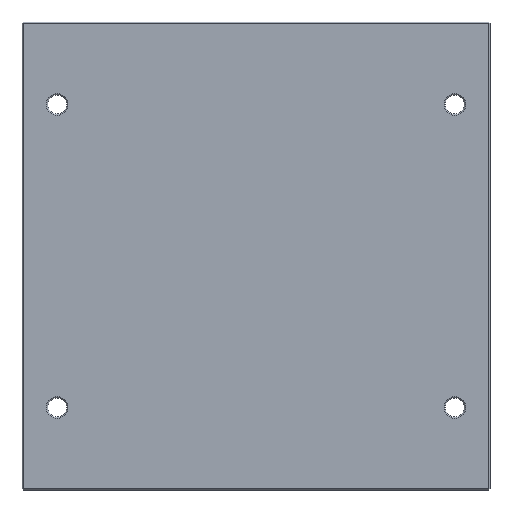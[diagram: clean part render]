
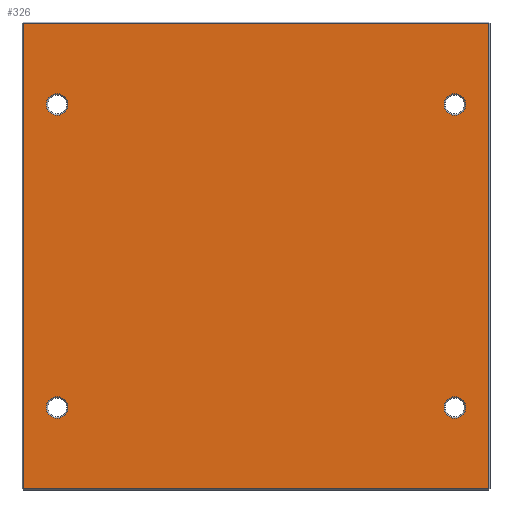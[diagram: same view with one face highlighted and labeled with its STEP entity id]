
A CAD part, front view. The second image highlights one B-rep face of the part: STEP entity #326.
In plain terms, the highlighted planar face has unit normal (0, -1, 0).
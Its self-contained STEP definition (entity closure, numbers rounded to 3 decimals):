
#25 = EDGE_CURVE ( 'NONE', #1587, #865, #1390, .T. ) ;
#29 = CARTESIAN_POINT ( 'NONE',  ( 172., 0., -172. ) ) ;
#34 = LINE ( 'NONE', #241, #256 ) ;
#62 = EDGE_CURVE ( 'NONE', #1542, #1188, #655, .T. ) ;
#63 = VECTOR ( 'NONE', #1404, 1000. ) ;
#65 = EDGE_CURVE ( 'NONE', #130, #808, #34, .T. ) ;
#73 = EDGE_LOOP ( 'NONE', ( #932, #1410, #897, #703 ) ) ;
#75 = DIRECTION ( 'NONE',  ( 0., 0., 1. ) ) ;
#78 = EDGE_CURVE ( 'NONE', #455, #1236, #234, .T. ) ;
#80 = CARTESIAN_POINT ( 'NONE',  ( 147., 0., -112. ) ) ;
#100 = EDGE_CURVE ( 'NONE', #519, #852, #1052, .T. ) ;
#110 = DIRECTION ( 'NONE',  ( 0., 1., 0. ) ) ;
#124 = EDGE_CURVE ( 'NONE', #1464, #130, #934, .T. ) ;
#130 = VERTEX_POINT ( 'NONE', #29 ) ;
#149 = EDGE_CURVE ( 'NONE', #1236, #455, #770, .T. ) ;
#157 = DIRECTION ( 'NONE',  ( 0., 0., 1. ) ) ;
#158 = CARTESIAN_POINT ( 'NONE',  ( 147., 0., -112. ) ) ;
#164 = ORIENTED_EDGE ( 'NONE', *, *, #62, .T. ) ;
#168 = CARTESIAN_POINT ( 'NONE',  ( -147., 0., 120. ) ) ;
#169 = CARTESIAN_POINT ( 'NONE',  ( 147., 0., 112. ) ) ;
#190 = DIRECTION ( 'NONE',  ( 1., 0., 0. ) ) ;
#234 = CIRCLE ( 'NONE', #1141, 8. ) ;
#241 = CARTESIAN_POINT ( 'NONE',  ( 172., 0., 0. ) ) ;
#256 = VECTOR ( 'NONE', #735, 1000. ) ;
#271 = DIRECTION ( 'NONE',  ( 0., 0., 1. ) ) ;
#272 = EDGE_LOOP ( 'NONE', ( #881, #1018 ) ) ;
#273 = CARTESIAN_POINT ( 'NONE',  ( -147., 0., 104. ) ) ;
#290 = DIRECTION ( 'NONE',  ( 0., 0., 1. ) ) ;
#306 = EDGE_CURVE ( 'NONE', #1084, #1464, #794, .T. ) ;
#312 = ORIENTED_EDGE ( 'NONE', *, *, #78, .T. ) ;
#319 = CARTESIAN_POINT ( 'NONE',  ( 147., 0., 120. ) ) ;
#326 = ADVANCED_FACE ( 'NONE', ( #760, #716, #733, #697, #694 ), #1627, .F. ) ;
#393 = DIRECTION ( 'NONE',  ( 0., 0., 1. ) ) ;
#395 = DIRECTION ( 'NONE',  ( 0., 1., 0. ) ) ;
#427 = CARTESIAN_POINT ( 'NONE',  ( -172., 0., 172. ) ) ;
#430 = CARTESIAN_POINT ( 'NONE',  ( 0., 0., 172. ) ) ;
#455 = VERTEX_POINT ( 'NONE', #518 ) ;
#470 = CIRCLE ( 'NONE', #1510, 8. ) ;
#503 = EDGE_CURVE ( 'NONE', #808, #1084, #1220, .T. ) ;
#518 = CARTESIAN_POINT ( 'NONE',  ( 147., 0., -120. ) ) ;
#519 = VERTEX_POINT ( 'NONE', #168 ) ;
#534 = CARTESIAN_POINT ( 'NONE',  ( -147., 0., -104. ) ) ;
#552 = EDGE_CURVE ( 'NONE', #852, #519, #470, .T. ) ;
#553 = ORIENTED_EDGE ( 'NONE', *, *, #1454, .T. ) ;
#562 = CARTESIAN_POINT ( 'NONE',  ( -147., 0., -120. ) ) ;
#631 = DIRECTION ( 'NONE',  ( 0., 1., 0. ) ) ;
#655 = CIRCLE ( 'NONE', #1150, 8. ) ;
#658 = EDGE_LOOP ( 'NONE', ( #1075, #1502 ) ) ;
#677 = CARTESIAN_POINT ( 'NONE',  ( -172., 0., -172. ) ) ;
#694 = FACE_OUTER_BOUND ( 'NONE', #73, .T. ) ;
#697 = FACE_BOUND ( 'NONE', #272, .T. ) ;
#703 = ORIENTED_EDGE ( 'NONE', *, *, #124, .T. ) ;
#704 = CARTESIAN_POINT ( 'NONE',  ( -147., 0., 112. ) ) ;
#716 = FACE_BOUND ( 'NONE', #1487, .T. ) ;
#733 = FACE_BOUND ( 'NONE', #658, .T. ) ;
#735 = DIRECTION ( 'NONE',  ( 0., 0., 1. ) ) ;
#760 = FACE_BOUND ( 'NONE', #1623, .T. ) ;
#770 = CIRCLE ( 'NONE', #1055, 8. ) ;
#775 = VECTOR ( 'NONE', #1251, 1000. ) ;
#791 = AXIS2_PLACEMENT_3D ( 'NONE', #1229, #1146, #1658 ) ;
#794 = LINE ( 'NONE', #1242, #775 ) ;
#799 = ORIENTED_EDGE ( 'NONE', *, *, #149, .T. ) ;
#800 = DIRECTION ( 'NONE',  ( 0., 1., 0. ) ) ;
#802 = DIRECTION ( 'NONE',  ( 0., 0., 1. ) ) ;
#808 = VERTEX_POINT ( 'NONE', #866 ) ;
#829 = VECTOR ( 'NONE', #190, 1000. ) ;
#851 = DIRECTION ( 'NONE',  ( 0., 1., 0. ) ) ;
#852 = VERTEX_POINT ( 'NONE', #273 ) ;
#865 = VERTEX_POINT ( 'NONE', #534 ) ;
#866 = CARTESIAN_POINT ( 'NONE',  ( 172., 0., 172. ) ) ;
#881 = ORIENTED_EDGE ( 'NONE', *, *, #25, .T. ) ;
#894 = CARTESIAN_POINT ( 'NONE',  ( 147., 0., 112. ) ) ;
#897 = ORIENTED_EDGE ( 'NONE', *, *, #306, .T. ) ;
#932 = ORIENTED_EDGE ( 'NONE', *, *, #65, .T. ) ;
#934 = LINE ( 'NONE', #1476, #829 ) ;
#1004 = CIRCLE ( 'NONE', #1194, 8. ) ;
#1018 = ORIENTED_EDGE ( 'NONE', *, *, #1531, .T. ) ;
#1024 = CIRCLE ( 'NONE', #1134, 8. ) ;
#1052 = CIRCLE ( 'NONE', #1088, 8. ) ;
#1055 = AXIS2_PLACEMENT_3D ( 'NONE', #158, #110, #75 ) ;
#1056 = CARTESIAN_POINT ( 'NONE',  ( -147., 0., -112. ) ) ;
#1075 = ORIENTED_EDGE ( 'NONE', *, *, #552, .T. ) ;
#1084 = VERTEX_POINT ( 'NONE', #427 ) ;
#1088 = AXIS2_PLACEMENT_3D ( 'NONE', #1176, #1209, #290 ) ;
#1092 = CARTESIAN_POINT ( 'NONE',  ( 147., 0., 104. ) ) ;
#1100 = DIRECTION ( 'NONE',  ( 0., 1., 0. ) ) ;
#1134 = AXIS2_PLACEMENT_3D ( 'NONE', #1550, #851, #157 ) ;
#1141 = AXIS2_PLACEMENT_3D ( 'NONE', #80, #1271, #1185 ) ;
#1146 = DIRECTION ( 'NONE',  ( 0., 1., 0. ) ) ;
#1150 = AXIS2_PLACEMENT_3D ( 'NONE', #169, #395, #271 ) ;
#1176 = CARTESIAN_POINT ( 'NONE',  ( -147., 0., 112. ) ) ;
#1185 = DIRECTION ( 'NONE',  ( 0., 0., 1. ) ) ;
#1188 = VERTEX_POINT ( 'NONE', #319 ) ;
#1194 = AXIS2_PLACEMENT_3D ( 'NONE', #894, #631, #393 ) ;
#1209 = DIRECTION ( 'NONE',  ( 0., 1., 0. ) ) ;
#1220 = LINE ( 'NONE', #430, #63 ) ;
#1229 = CARTESIAN_POINT ( 'NONE',  ( 0., 0., 0. ) ) ;
#1236 = VERTEX_POINT ( 'NONE', #1347 ) ;
#1242 = CARTESIAN_POINT ( 'NONE',  ( -172., 0., 0. ) ) ;
#1251 = DIRECTION ( 'NONE',  ( 0., 0., -1. ) ) ;
#1262 = AXIS2_PLACEMENT_3D ( 'NONE', #1056, #1100, #1300 ) ;
#1271 = DIRECTION ( 'NONE',  ( 0., 1., 0. ) ) ;
#1300 = DIRECTION ( 'NONE',  ( 0., 0., 1. ) ) ;
#1347 = CARTESIAN_POINT ( 'NONE',  ( 147., 0., -104. ) ) ;
#1390 = CIRCLE ( 'NONE', #1262, 8. ) ;
#1404 = DIRECTION ( 'NONE',  ( -1., 0., 0. ) ) ;
#1410 = ORIENTED_EDGE ( 'NONE', *, *, #503, .T. ) ;
#1454 = EDGE_CURVE ( 'NONE', #1188, #1542, #1004, .T. ) ;
#1464 = VERTEX_POINT ( 'NONE', #677 ) ;
#1476 = CARTESIAN_POINT ( 'NONE',  ( 0., 0., -172. ) ) ;
#1487 = EDGE_LOOP ( 'NONE', ( #164, #553 ) ) ;
#1502 = ORIENTED_EDGE ( 'NONE', *, *, #100, .T. ) ;
#1510 = AXIS2_PLACEMENT_3D ( 'NONE', #704, #800, #802 ) ;
#1531 = EDGE_CURVE ( 'NONE', #865, #1587, #1024, .T. ) ;
#1542 = VERTEX_POINT ( 'NONE', #1092 ) ;
#1550 = CARTESIAN_POINT ( 'NONE',  ( -147., 0., -112. ) ) ;
#1587 = VERTEX_POINT ( 'NONE', #562 ) ;
#1623 = EDGE_LOOP ( 'NONE', ( #312, #799 ) ) ;
#1627 = PLANE ( 'NONE',  #791 ) ;
#1658 = DIRECTION ( 'NONE',  ( 0., 0., 1. ) ) ;
